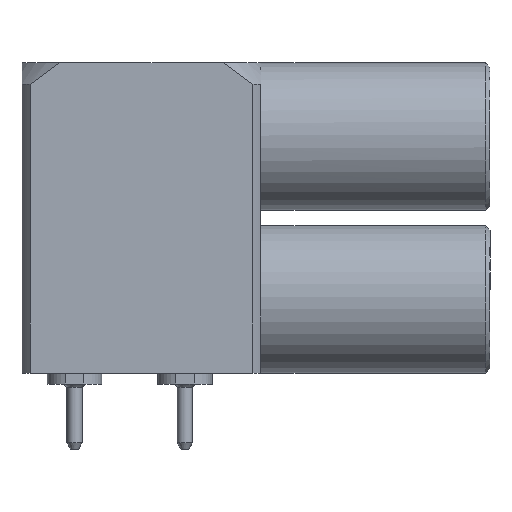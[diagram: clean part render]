
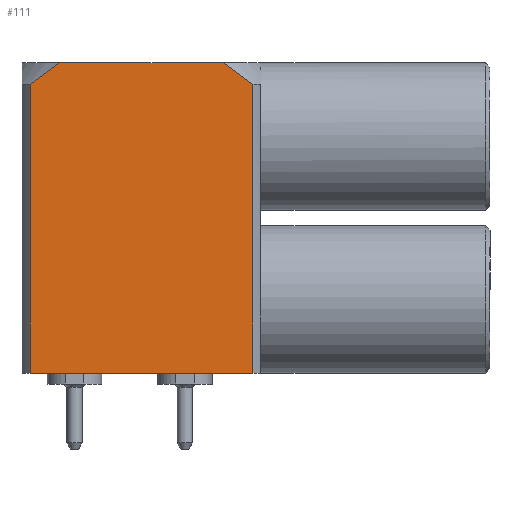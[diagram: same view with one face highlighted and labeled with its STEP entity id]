
A CAD part, top view. The second image highlights one B-rep face of the part: STEP entity #111.
In plain terms, the highlighted planar face has unit normal (0, 0, 1).
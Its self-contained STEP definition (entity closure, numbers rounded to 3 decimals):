
#111=ADVANCED_FACE('',(#254),#255,.T.);
#254=FACE_OUTER_BOUND('',#476,.T.);
#255=PLANE('',#477);
#476=EDGE_LOOP('',(#878,#879,#880,#881,#882,#883));
#477=AXIS2_PLACEMENT_3D('',#884,#885,#886);
#878=ORIENTED_EDGE('',*,*,#1577,.F.);
#879=ORIENTED_EDGE('',*,*,#1578,.T.);
#880=ORIENTED_EDGE('',*,*,#1579,.T.);
#881=ORIENTED_EDGE('',*,*,#1580,.F.);
#882=ORIENTED_EDGE('',*,*,#1581,.T.);
#883=ORIENTED_EDGE('',*,*,#1582,.T.);
#884=CARTESIAN_POINT('',(-2.75,1.7,4.0));
#885=DIRECTION('',(0.0,0.0,1.0));
#886=DIRECTION('',(1.0,0.0,0.0));
#1577=EDGE_CURVE('',#1941,#1942,#1943,.T.);
#1578=EDGE_CURVE('',#1941,#1944,#1945,.T.);
#1579=EDGE_CURVE('',#1944,#1946,#1947,.T.);
#1580=EDGE_CURVE('',#1948,#1946,#1949,.T.);
#1581=EDGE_CURVE('',#1948,#1950,#1951,.T.);
#1582=EDGE_CURVE('',#1950,#1942,#1952,.T.);
#1941=VERTEX_POINT('',#2448);
#1942=VERTEX_POINT('',#2449);
#1943=LINE('',#2450,#2451);
#1944=VERTEX_POINT('',#2452);
#1945=LINE('',#2453,#2454);
#1946=VERTEX_POINT('',#2455);
#1947=(B_SPLINE_CURVE(2,(#2457,#2458,#2459),.UNSPECIFIED.,.F.,.F.)B_SPLINE_CURVE_WITH_KNOTS((3,3),(0.0,0.168),.UNSPECIFIED.)RATIONAL_B_SPLINE_CURVE((1.0,1.006,1.0))BOUNDED_CURVE()REPRESENTATION_ITEM('')GEOMETRIC_REPRESENTATION_ITEM()CURVE());
#1948=VERTEX_POINT('',#2466);
#1949=LINE('',#2467,#2468);
#1950=VERTEX_POINT('',#2469);
#1951=(B_SPLINE_CURVE(2,(#2471,#2472,#2473),.UNSPECIFIED.,.F.,.F.)B_SPLINE_CURVE_WITH_KNOTS((3,3),(0.0,0.168),.UNSPECIFIED.)RATIONAL_B_SPLINE_CURVE((1.0,1.006,1.0))BOUNDED_CURVE()REPRESENTATION_ITEM('')GEOMETRIC_REPRESENTATION_ITEM()CURVE());
#1952=LINE('',#2480,#2481);
#2448=CARTESIAN_POINT('',(5.123,-10.9,4.0));
#2449=CARTESIAN_POINT('',(-5.123,-10.9,4.0));
#2450=CARTESIAN_POINT('',(-5.5,-10.9,4.0));
#2451=VECTOR('',#2968,10.0);
#2452=CARTESIAN_POINT('',(5.123,2.4,4.0));
#2453=CARTESIAN_POINT('',(5.123,-4.25,4.0));
#2454=VECTOR('',#2969,10.0);
#2455=CARTESIAN_POINT('',(3.775,3.4,4.0));
#2457=CARTESIAN_POINT('',(5.123,2.4,4.0));
#2458=CARTESIAN_POINT('',(4.393,2.976,4.0));
#2459=CARTESIAN_POINT('',(3.775,3.4,4.0));
#2466=CARTESIAN_POINT('',(-3.775,3.4,4.0));
#2467=CARTESIAN_POINT('',(5.5,3.4,4.0));
#2468=VECTOR('',#2970,10.0);
#2469=CARTESIAN_POINT('',(-5.123,2.4,4.0));
#2471=CARTESIAN_POINT('',(-3.775,3.4,4.0));
#2472=CARTESIAN_POINT('',(-4.393,2.976,4.0));
#2473=CARTESIAN_POINT('',(-5.123,2.4,4.0));
#2480=CARTESIAN_POINT('',(-5.123,-4.25,4.0));
#2481=VECTOR('',#2971,10.0);
#2968=DIRECTION('',(-1.0,0.0,0.0));
#2969=DIRECTION('',(0.,1.0,0.0));
#2970=DIRECTION('',(1.0,0.,0.0));
#2971=DIRECTION('',(0.,-1.0,0.0));
